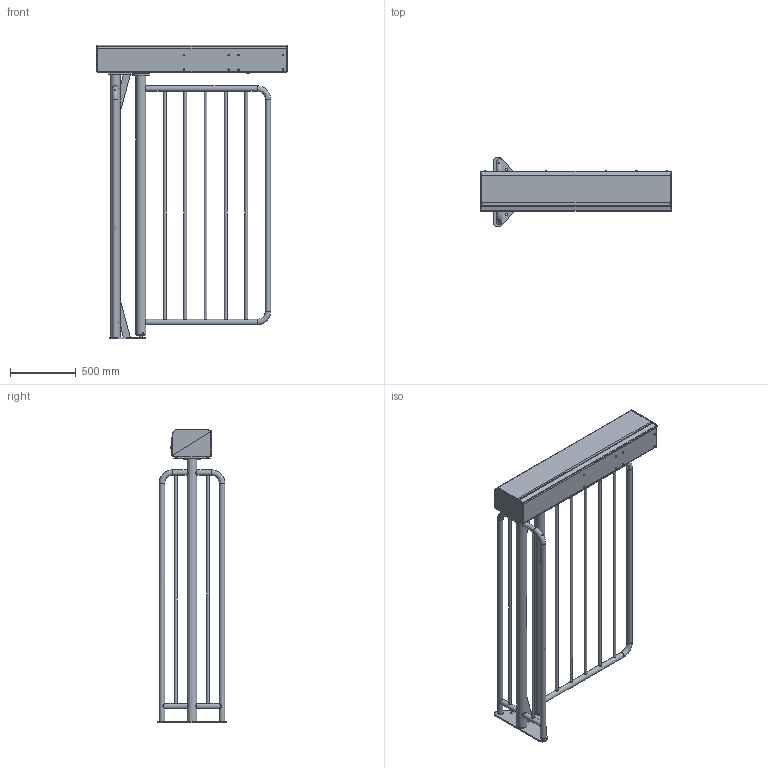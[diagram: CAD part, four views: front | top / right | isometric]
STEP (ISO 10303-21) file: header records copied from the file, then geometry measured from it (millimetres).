
FILE_DESCRIPTION(/* description */ ('Unknown'),/* implementation_level */ '2;1');
FILE_NAME(/* name */ '55870027_00',/* time_stamp */ '2026-04-23T11:48:46+02:00',/* author */ ('Unknown'),/* organization */ ('Unknown'),/* preprocessor_version */ 'ST-DEVELOPER v18.104',/* originating_system */ 'Solid Edge',/* authorisation */ 'Unknown');
FILE_SCHEMA (('AUTOMOTIVE_DESIGN {1 0 10303 214 3 1 1}'));
Products named in the file (1): 55870027
Bounding box: 1451.3 x 532.99 x 2235.39 mm (x, y, z)
Volume: 15845365.9 mm3; surface area: 9350581.3 mm2
Topology: 104 solids, 104 shells, 1884 faces, 4622 edges, 2999 vertices
Faces by surface type: plane 1165, cylinder 414, cone 252, torus 48, bspline 4, sphere 1
Full cylindrical faces by diameter (mm): 0.1 x8, 1 x1, 1.7 x2, 2 x1, 3 x2, 3.3 x3, 4 x6, 4.019 x4, 4.2 x5, 4.3 x6, 4.4 x3, 4.5 x4, 5 x13, 5.3 x4, 5.5 x14, 5.9 x2, 6 x3, 6.5 x1, 6.8 x3, 7 x7, 7.5 x2, 8 x9, 8.16 x1, 8.376 x2, 8.5 x27, 9 x6, 10 x4, 10.106 x6, 10.156 x6, 10.2 x5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
Entity records: 61097 total; most frequent: CARTESIAN_POINT 16761, DIRECTION 8560, ORIENTED_EDGE 8000, EDGE_CURVE 4000, AXIS2_PLACEMENT_3D 3228, VERTEX_POINT 2849, FACE_BOUND 2719, EDGE_LOOP 2712
